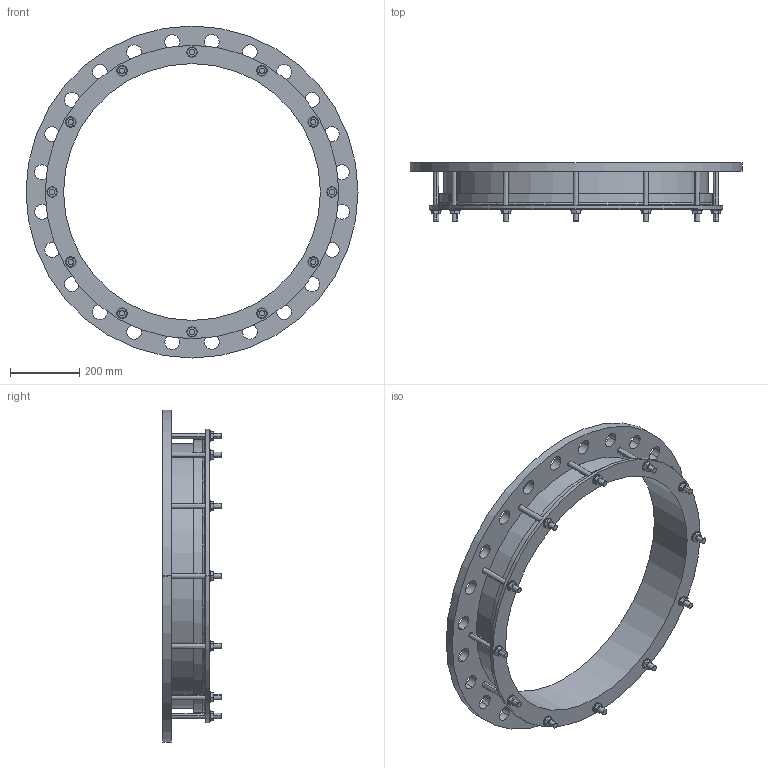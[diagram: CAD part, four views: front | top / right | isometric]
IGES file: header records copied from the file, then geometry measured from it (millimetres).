
Start section:  PTC IGES file: 738x700pn25.igs
Global section: file name: 738x700pn25.igs; native system: Creo Parametric by PTC Inc.; preprocessor: 2016130; author: mfairey; organization: Unknown; date: 20190404.140743; units: millimetre
Bounding box: 960 x 169 x 960 mm (x, y, z)
Surface area: 1528002.4 mm2 (no closed solid volume)
Topology: 0 solids, 0 shells, 246 faces, 1300 edges, 1300 vertices
Faces by surface type: revolution 134, bspline 112
